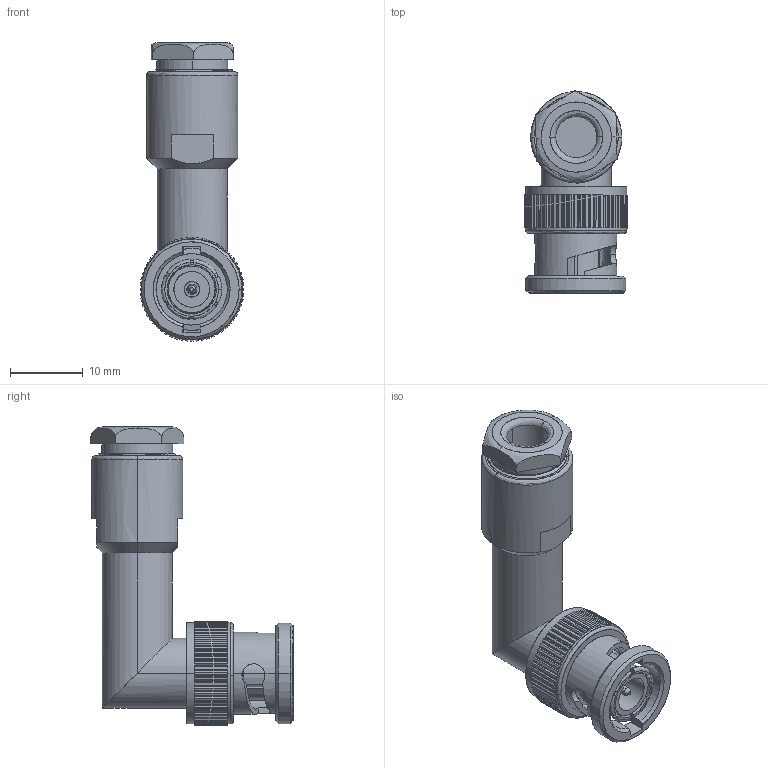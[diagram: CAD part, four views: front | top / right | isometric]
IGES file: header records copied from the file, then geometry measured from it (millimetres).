
Start section: SolidWorks IGES file using analytic representation for surfaces
Global section: file name: C:\Users\sculpepper\Desktop\mouser\1004015A00E-000\1004015A00E-000igs.IGS; native system: SolidWorks 2019; preprocessor: SolidWorks 2019; author: sculpepper; date: 210429.142838; units: inch
Bounding box: 14.32 x 27.9 x 41.13 mm (x, y, z)
Surface area: 3484.1 mm2 (no closed solid volume)
Topology: 0 solids, 0 shells, 544 faces, 4547 edges, 4543 vertices
Faces by surface type: bspline 334, revolution 210
